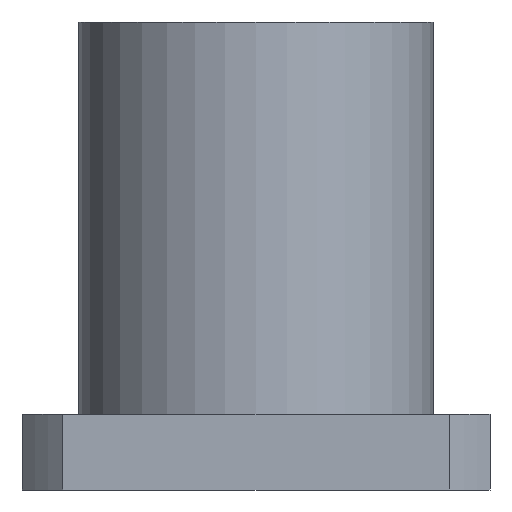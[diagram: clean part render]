
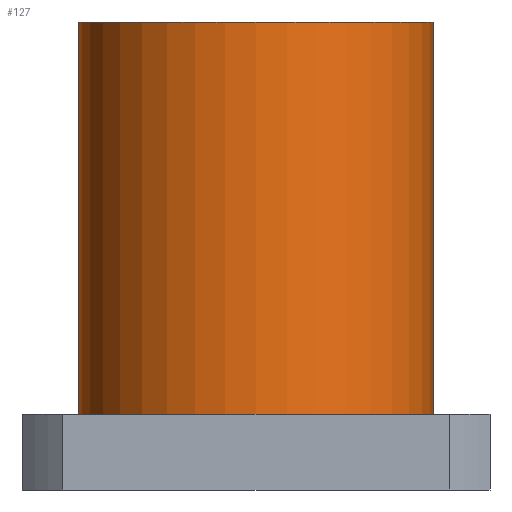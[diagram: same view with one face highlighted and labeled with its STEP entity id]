
A CAD part, front view. The second image highlights one B-rep face of the part: STEP entity #127.
In plain terms, the highlighted cylindrical face has radius 14 mm (diameter 28 mm), a partial arc.
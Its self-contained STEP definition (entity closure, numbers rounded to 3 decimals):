
#86=CARTESIAN_POINT('',(-14.031,3.294,0.0));
#87=DIRECTION('',(0.0,0.0,1.0));
#88=DIRECTION('',(-1.0,0.0,0.0));
#89=AXIS2_PLACEMENT_3D('',#86,#87,#88);
#90=CYLINDRICAL_SURFACE('',#89,14.);
#91=CARTESIAN_POINT('',(-28.031,3.294,6.0));
#92=VERTEX_POINT('',#91);
#93=CARTESIAN_POINT('',(-28.031,3.294,37.0));
#94=VERTEX_POINT('',#93);
#95=CARTESIAN_POINT('',(-28.031,3.294,6.0));
#96=DIRECTION('',(0.0,0.0,1.0));
#97=VECTOR('',#96,31.0);
#98=LINE('',#95,#97);
#99=EDGE_CURVE('',#92,#94,#98,.T.);
#100=ORIENTED_EDGE('',*,*,#99,.F.);
#101=CARTESIAN_POINT('',(-0.031,3.294,6.));
#102=VERTEX_POINT('',#101);
#103=CARTESIAN_POINT('',(-14.031,3.294,6.));
#104=DIRECTION('',(0.0,0.0,-1.0));
#105=DIRECTION('',(-1.0,0.0,0.0));
#106=AXIS2_PLACEMENT_3D('',#103,#104,#105);
#107=CIRCLE('',#106,14.);
#108=EDGE_CURVE('',#102,#92,#107,.T.);
#109=ORIENTED_EDGE('',*,*,#108,.F.);
#110=CARTESIAN_POINT('',(-0.031,3.294,37.0));
#111=VERTEX_POINT('',#110);
#112=CARTESIAN_POINT('',(-0.031,3.294,37.0));
#113=DIRECTION('',(0.0,0.0,-1.0));
#114=VECTOR('',#113,31.0);
#115=LINE('',#112,#114);
#116=EDGE_CURVE('',#111,#102,#115,.T.);
#117=ORIENTED_EDGE('',*,*,#116,.F.);
#118=CARTESIAN_POINT('',(-14.031,3.294,37.0));
#119=DIRECTION('',(0.0,0.0,-1.0));
#120=DIRECTION('',(-1.0,0.0,0.0));
#121=AXIS2_PLACEMENT_3D('',#118,#119,#120);
#122=CIRCLE('',#121,14.);
#123=EDGE_CURVE('',#111,#94,#122,.T.);
#124=ORIENTED_EDGE('',*,*,#123,.T.);
#125=EDGE_LOOP('',(#100,#109,#117,#124));
#126=FACE_OUTER_BOUND('',#125,.T.);
#127=ADVANCED_FACE('',(#126),#90,.T.);
